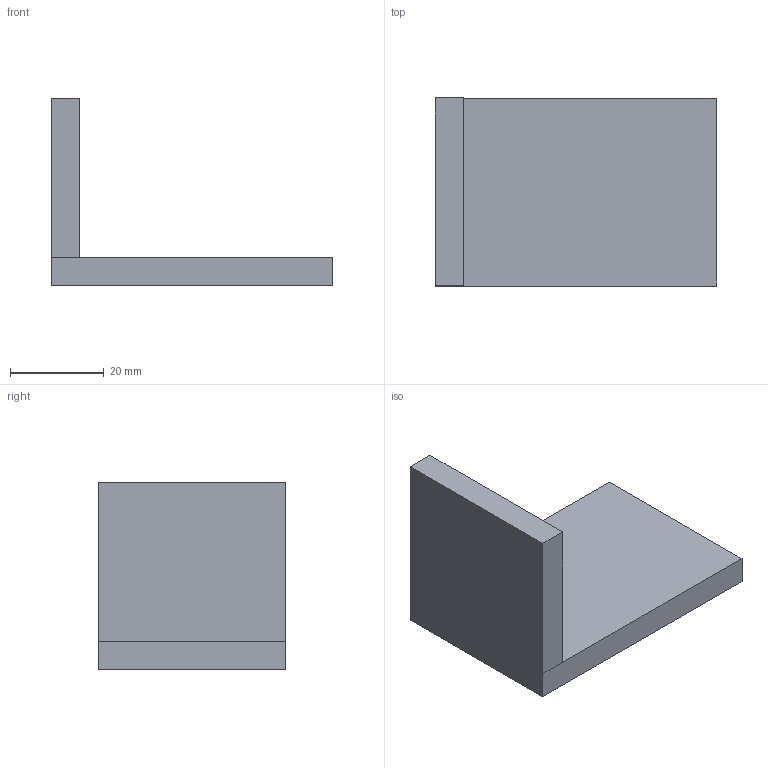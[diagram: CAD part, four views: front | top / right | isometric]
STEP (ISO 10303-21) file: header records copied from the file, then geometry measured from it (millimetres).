
FILE_DESCRIPTION(('Open CASCADE Model'),'2;1');
FILE_NAME('Open CASCADE Shape Model','2026-09-02T22:40:03',('Author'),( 'Open CASCADE'),'Open CASCADE STEP processor 7.8','Open CASCADE 7.8' ,'Unknown');
FILE_SCHEMA(('AUTOMOTIVE_DESIGN { 1 0 10303 214 1 1 1 1 }'));
Length unit declared in the file: millimetre
Products named in the file (1): Open CASCADE STEP translator 7.8 5
Bounding box: 60 x 40 x 40 mm (x, y, z)
Volume: 22560 mm3; surface area: 9128 mm2
Topology: 1 solids, 1 shells, 11 faces, 23 edges, 14 vertices
Faces by surface type: plane 11
Entity records: 594 total; most frequent: CARTESIAN_POINT 95, DIRECTION 93, LINE 69, VECTOR 69, ORIENTED_EDGE 46, PCURVE 46, DEFINITIONAL_REPRESENTATION 46, EDGE_CURVE 23
